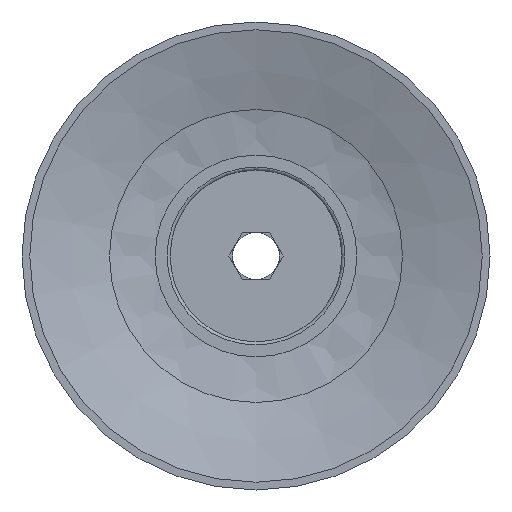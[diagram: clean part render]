
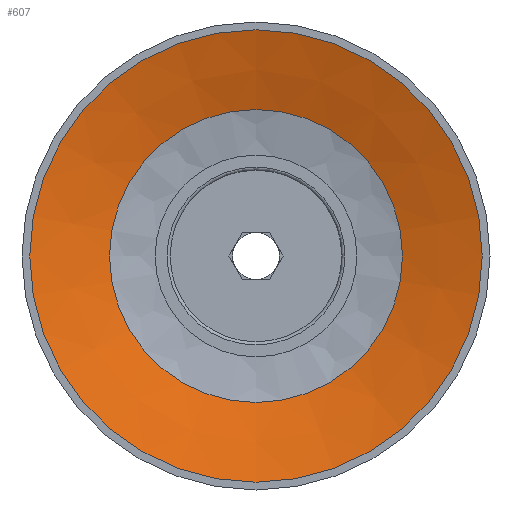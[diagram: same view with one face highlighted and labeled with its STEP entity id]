
A CAD part, front view. The second image highlights one B-rep face of the part: STEP entity #607.
In plain terms, the highlighted conical face has half-angle 73 degrees and reference radius 7.958 mm.
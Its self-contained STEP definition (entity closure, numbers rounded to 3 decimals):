
#607=ADVANCED_FACE('',(#861,#862),#863,.F.);
#861=FACE_BOUND('',#1168,.T.);
#862=FACE_OUTER_BOUND('',#1169,.T.);
#863=CONICAL_SURFACE('',#1170,7.958,1.274);
#1168=EDGE_LOOP('',(#1928));
#1169=EDGE_LOOP('',(#1929));
#1170=AXIS2_PLACEMENT_3D('',#1930,#1931,#1932);
#1928=ORIENTED_EDGE('',*,*,#2278,.T.);
#1929=ORIENTED_EDGE('',*,*,#2279,.T.);
#1930=CARTESIAN_POINT('',(0.0,9.363,0.0));
#1931=DIRECTION('',(-0.0,-1.0,0.));
#1932=DIRECTION('',(0.0,0.,-1.0));
#2278=EDGE_CURVE('',#2620,#2620,#2621,.T.);
#2279=EDGE_CURVE('',#2622,#2622,#2623,.T.);
#2620=VERTEX_POINT('',#3392);
#2621=CIRCLE('',#3393,9.388);
#2622=VERTEX_POINT('',#3394);
#2623=CIRCLE('',#3395,14.5);
#3392=CARTESIAN_POINT('',(0.0,8.926,-9.388));
#3393=AXIS2_PLACEMENT_3D('',#3763,#3764,#3765);
#3394=CARTESIAN_POINT('',(0.0,7.363,-14.5));
#3395=AXIS2_PLACEMENT_3D('',#3766,#3767,#3768);
#3763=CARTESIAN_POINT('',(0.0,8.926,0.0));
#3764=DIRECTION('',(0.0,1.0,0.));
#3765=DIRECTION('',(0.0,0.,-1.0));
#3766=CARTESIAN_POINT('',(0.0,7.363,0.0));
#3767=DIRECTION('',(0.0,-1.0,0.));
#3768=DIRECTION('',(0.0,0.,-1.0));
